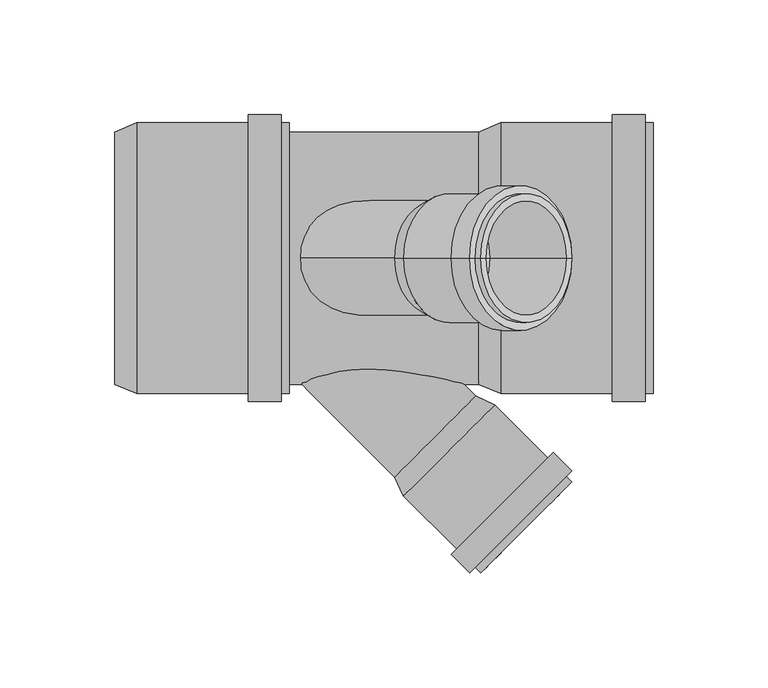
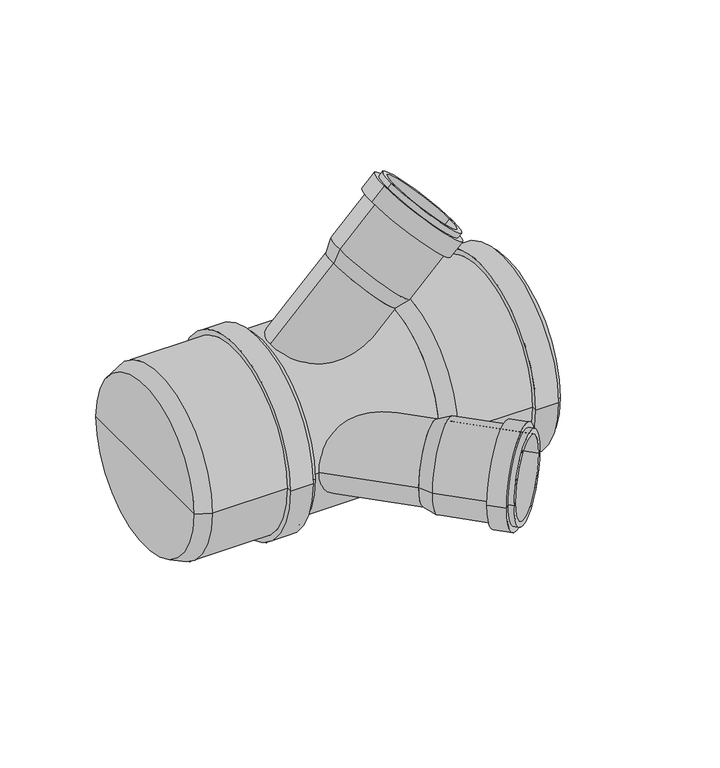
"""IFC4 building model written with IfcOpenShell, lengths in millimetres: pipe fitting geometry, pf_HTED : pf_HTED."""

from ifc_helpers import new_model, si_unit, point, frame, origin, origin_2d, place, context, project, spatial, polyline, circle_curve, trimmed, segment, composite_curve, outline, extrude, source, transform, mapped, element, save
from ifc_brep_helpers import plane_surface, cylinder_surface, revolved_surface, advanced_brep


def pipe_fitting_cdb1fdf9(model_context):
    return source(origin(), model_context, "Body", "SolidModel", [
        advanced_brep(
        [(95.5301261, 0.0, 60.1747871), (60.1747871, 0.0, 95.5301261), (63.9931637, 0.0, 103.7325648), (103.7325648, 0.0, 63.9931637), (77.8524566, 0.0, 77.8524566), (137.3201369, 0.0, 97.5807358), (97.5807358, 0.0, 137.3201369), (99.7727668, 0.0, 135.1281059), (135.1281059, 0.0, 99.7727668), (134.9159739, 0.0, 95.1765727), (95.1765727, 0.0, 134.9159739), (137.3201369, 0.0, 92.7724097), (92.7724097, 0.0, 137.3201369), (129.2591196, 0.0, 84.7113924), (84.7113924, 0.0, 129.2591196), (126.8549565, 0.0, 87.1155554), (87.1155554, 0.0, 126.8549565), (101.5405338, 0.0, 66.1851947), (66.1851947, 0.0, 101.5405338), (83.8628642, 0.0, 83.8628642)],
        [
            (0, 1, circle_curve(frame((77.8524566, 0.0, 77.8524566), z_axis=(0.707106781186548, 0.0, 0.7071067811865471), x_axis=(-0.7071067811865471, 0.0, 0.707106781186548)), 25.0)),
            (1, 2),
            (2, 3, circle_curve(frame((83.8628642, 0.0, 83.8628642), z_axis=(-0.707106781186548, 0.0, -0.7071067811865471), x_axis=(-0.7071067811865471, 0.0, 0.707106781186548)), 28.1)),
            (3, 0),
            (1, 0, circle_curve(frame((77.8524566, 0.0, 77.8524566), z_axis=(0.707106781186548, 0.0, 0.7071067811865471), x_axis=(-0.7071067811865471, 0.0, 0.707106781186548)), 25.0)),
            (3, 2, circle_curve(frame((83.8628642, 0.0, 83.8628642), z_axis=(-0.707106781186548, 0.0, -0.7071067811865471), x_axis=(-0.7071067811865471, 0.0, 0.707106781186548)), 28.1)),
            (4, 1),
            (0, 4),
            (5, 6, circle_curve(frame((117.4504364, 0.0, 117.4504364), z_axis=(0.707106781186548, 0.0, 0.7071067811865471), x_axis=(-0.7071067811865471, 0.0, 0.707106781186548)), 28.1)),
            (6, 7),
            (7, 8, circle_curve(frame((117.4504364, 0.0, 117.4504364), z_axis=(-0.707106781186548, 0.0, -0.7071067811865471), x_axis=(-0.7071067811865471, 0.0, 0.707106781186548)), 25.0)),
            (8, 5),
            (6, 5, circle_curve(frame((117.4504364, 0.0, 117.4504364), z_axis=(0.707106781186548, 0.0, 0.7071067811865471), x_axis=(-0.7071067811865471, 0.0, 0.707106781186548)), 28.1)),
            (8, 7, circle_curve(frame((117.4504364, 0.0, 117.4504364), z_axis=(-0.707106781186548, 0.0, -0.7071067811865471), x_axis=(-0.7071067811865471, 0.0, 0.707106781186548)), 25.0)),
            (9, 10, circle_curve(frame((115.0462733, 0.0, 115.0462733), z_axis=(0.707106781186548, 0.0, 0.7071067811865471), x_axis=(-0.7071067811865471, 0.0, 0.707106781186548)), 28.1)),
            (10, 6),
            (5, 9),
            (10, 9, circle_curve(frame((115.0462733, 0.0, 115.0462733), z_axis=(0.707106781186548, 0.0, 0.7071067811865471), x_axis=(-0.7071067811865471, 0.0, 0.707106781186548)), 28.1)),
            (11, 12, circle_curve(frame((115.0462733, 0.0, 115.0462733), z_axis=(0.707106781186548, 0.0, 0.7071067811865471), x_axis=(-0.7071067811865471, 0.0, 0.707106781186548)), 31.5)),
            (12, 10),
            (9, 11),
            (12, 11, circle_curve(frame((115.0462733, 0.0, 115.0462733), z_axis=(0.707106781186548, 0.0, 0.7071067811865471), x_axis=(-0.7071067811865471, 0.0, 0.707106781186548)), 31.5)),
            (13, 14, circle_curve(frame((106.985256, 0.0, 106.985256), z_axis=(0.707106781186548, 0.0, 0.7071067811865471), x_axis=(-0.7071067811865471, 0.0, 0.707106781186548)), 31.5)),
            (14, 12),
            (11, 13),
            (14, 13, circle_curve(frame((106.985256, 0.0, 106.985256), z_axis=(0.707106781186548, 0.0, 0.7071067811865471), x_axis=(-0.7071067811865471, 0.0, 0.707106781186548)), 31.5)),
            (15, 16, circle_curve(frame((106.985256, 0.0, 106.985256), z_axis=(0.707106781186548, 0.0, 0.7071067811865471), x_axis=(-0.7071067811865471, 0.0, 0.707106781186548)), 28.1)),
            (16, 14),
            (13, 15),
            (16, 15, circle_curve(frame((106.985256, 0.0, 106.985256), z_axis=(0.707106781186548, 0.0, 0.7071067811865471), x_axis=(-0.7071067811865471, 0.0, 0.707106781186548)), 28.1)),
            (2, 16),
            (15, 3),
            (17, 18, circle_curve(frame((83.8628642, 0.0, 83.8628642), z_axis=(0.707106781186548, 0.0, 0.7071067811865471), x_axis=(-0.7071067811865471, 0.0, 0.707106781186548)), 25.0)),
            (18, 19),
            (19, 17),
            (18, 17, circle_curve(frame((83.8628642, 0.0, 83.8628642), z_axis=(0.707106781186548, 0.0, 0.7071067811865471), x_axis=(-0.7071067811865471, 0.0, 0.707106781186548)), 25.0)),
            (7, 18),
            (17, 8),
        ],
        [
            revolved_surface(polyline([(63.9931637, 0.0, 103.7325648), (60.1747871, 0.0, 95.5301261)]), (77.8524566, 0.0, 77.8524566), (-0.707106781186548, 0.0, -0.7071067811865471)),
            plane_surface(frame((77.8524566, 0.0, 77.8524566), z_axis=(-0.707106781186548, 0.0, -0.7071067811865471), x_axis=(-0.7071067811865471, 0.0, 0.707106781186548))),
            plane_surface(frame((117.4504364, 0.0, 117.4504364), z_axis=(0.707106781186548, 0.0, 0.7071067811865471), x_axis=(-0.7071067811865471, 0.0, 0.707106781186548))),
            cylinder_surface(frame((77.8524566, 0.0, 77.8524566), z_axis=(-0.707106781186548, 0.0, -0.7071067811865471), x_axis=(-0.7071067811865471, 0.0, 0.707106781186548)), 28.1),
            plane_surface(frame((115.0462733, 0.0, 115.0462733), z_axis=(0.707106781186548, 0.0, 0.7071067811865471), x_axis=(-0.7071067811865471, 0.0, 0.707106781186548))),
            cylinder_surface(frame((77.8524566, 0.0, 77.8524566), z_axis=(-0.707106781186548, 0.0, -0.7071067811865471), x_axis=(-0.7071067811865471, 0.0, 0.707106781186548)), 31.5),
            plane_surface(frame((106.985256, 0.0, 106.985256), z_axis=(-0.707106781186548, 0.0, -0.7071067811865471), x_axis=(-0.7071067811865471, 0.0, 0.707106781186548))),
            plane_surface(frame((83.8628642, 0.0, 83.8628642), z_axis=(0.707106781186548, 0.0, 0.7071067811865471), x_axis=(-0.7071067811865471, 0.0, 0.707106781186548))),
            revolved_surface(polyline([(66.18519467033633, 0.0, 101.54053372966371), (99.77276687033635, 0.0, 135.1281059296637)]), (77.8524566, 0.0, 77.8524566), (-0.707106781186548, 0.0, -0.7071067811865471)),
        ],
        [
            (0, [[1, 2, 3, 4]]),
            (0, [[5, -4, 6, -2]]),
            (1, [[7, -1, 8]]),
            (1, [[-8, -5, -7]]),
            (2, [[9, 10, 11, 12]]),
            (2, [[13, -12, 14, -10]]),
            (3, [[15, 16, -9, 17]]),
            (3, [[18, -17, -13, -16]]),
            (4, [[19, 20, -15, 21]]),
            (4, [[22, -21, -18, -20]]),
            (5, [[23, 24, -19, 25]]),
            (5, [[26, -25, -22, -24]]),
            (6, [[27, 28, -23, 29]]),
            (6, [[30, -29, -26, -28]]),
            (3, [[-3, 31, -27, 32]]),
            (3, [[-6, -32, -30, -31]]),
            (7, [[33, 34, 35]]),
            (7, [[36, -35, -34]]),
            (8, [[-11, 37, -33, 38]]),
            (8, [[-14, -38, -36, -37]]),
        ],
    ),
        advanced_brep(
        [(60.1747871, -95.5301261, 0.0), (95.5301261, -60.1747871, 0.0), (103.7325648, -63.9931637, 0.0), (63.9931637, -103.7325648, 0.0), (77.8524566, -77.8524566, 0.0), (97.5807358, -137.3201369, 0.0), (137.3201369, -97.5807358, 0.0), (135.1281059, -99.7727668, 0.0), (99.7727668, -135.1281059, 0.0), (95.1765727, -134.9159739, 0.0), (134.9159739, -95.1765727, 0.0), (92.7724097, -137.3201369, 0.0), (137.3201369, -92.7724097, 0.0), (84.7113924, -129.2591196, 0.0), (129.2591196, -84.7113924, 0.0), (87.1155554, -126.8549565, 0.0), (126.8549565, -87.1155554, 0.0), (66.1851947, -101.5405338, 0.0), (101.5405338, -66.1851947, 0.0), (83.8628642, -83.8628642, 0.0)],
        [
            (0, 1, circle_curve(frame((77.8524566, -77.8524566, 0.0), z_axis=(0.7071067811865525, -0.7071067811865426, 0.0), x_axis=(0.7071067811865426, 0.7071067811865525, 0.0)), 25.0)),
            (1, 2),
            (2, 3, circle_curve(frame((83.8628642, -83.8628642, 0.0), z_axis=(-0.7071067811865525, 0.7071067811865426, 0.0), x_axis=(0.7071067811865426, 0.7071067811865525, 0.0)), 28.1)),
            (3, 0),
            (1, 0, circle_curve(frame((77.8524566, -77.8524566, 0.0), z_axis=(0.7071067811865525, -0.7071067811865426, 0.0), x_axis=(0.7071067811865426, 0.7071067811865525, 0.0)), 25.0)),
            (3, 2, circle_curve(frame((83.8628642, -83.8628642, 0.0), z_axis=(-0.7071067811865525, 0.7071067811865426, 0.0), x_axis=(0.7071067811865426, 0.7071067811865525, 0.0)), 28.1)),
            (4, 1),
            (0, 4),
            (5, 6, circle_curve(frame((117.4504364, -117.4504364, 0.0), z_axis=(0.7071067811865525, -0.7071067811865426, 0.0), x_axis=(0.7071067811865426, 0.7071067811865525, 0.0)), 28.1)),
            (6, 7),
            (7, 8, circle_curve(frame((117.4504364, -117.4504364, 0.0), z_axis=(-0.7071067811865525, 0.7071067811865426, 0.0), x_axis=(0.7071067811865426, 0.7071067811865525, 0.0)), 25.0)),
            (8, 5),
            (6, 5, circle_curve(frame((117.4504364, -117.4504364, 0.0), z_axis=(0.7071067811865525, -0.7071067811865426, 0.0), x_axis=(0.7071067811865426, 0.7071067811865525, 0.0)), 28.1)),
            (8, 7, circle_curve(frame((117.4504364, -117.4504364, 0.0), z_axis=(-0.7071067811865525, 0.7071067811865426, 0.0), x_axis=(0.7071067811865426, 0.7071067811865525, 0.0)), 25.0)),
            (9, 10, circle_curve(frame((115.0462733, -115.0462733, 0.0), z_axis=(0.7071067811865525, -0.7071067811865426, 0.0), x_axis=(0.7071067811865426, 0.7071067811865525, 0.0)), 28.1)),
            (10, 6),
            (5, 9),
            (10, 9, circle_curve(frame((115.0462733, -115.0462733, 0.0), z_axis=(0.7071067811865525, -0.7071067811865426, 0.0), x_axis=(0.7071067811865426, 0.7071067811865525, 0.0)), 28.1)),
            (11, 12, circle_curve(frame((115.0462733, -115.0462733, 0.0), z_axis=(0.7071067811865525, -0.7071067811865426, 0.0), x_axis=(0.7071067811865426, 0.7071067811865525, 0.0)), 31.5)),
            (12, 10),
            (9, 11),
            (12, 11, circle_curve(frame((115.0462733, -115.0462733, 0.0), z_axis=(0.7071067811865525, -0.7071067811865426, 0.0), x_axis=(0.7071067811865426, 0.7071067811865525, 0.0)), 31.5)),
            (13, 14, circle_curve(frame((106.985256, -106.985256, 0.0), z_axis=(0.7071067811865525, -0.7071067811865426, 0.0), x_axis=(0.7071067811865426, 0.7071067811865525, 0.0)), 31.5)),
            (14, 12),
            (11, 13),
            (14, 13, circle_curve(frame((106.985256, -106.985256, 0.0), z_axis=(0.7071067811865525, -0.7071067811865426, 0.0), x_axis=(0.7071067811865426, 0.7071067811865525, 0.0)), 31.5)),
            (15, 16, circle_curve(frame((106.985256, -106.985256, 0.0), z_axis=(0.7071067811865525, -0.7071067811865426, 0.0), x_axis=(0.7071067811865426, 0.7071067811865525, 0.0)), 28.1)),
            (16, 14),
            (13, 15),
            (16, 15, circle_curve(frame((106.985256, -106.985256, 0.0), z_axis=(0.7071067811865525, -0.7071067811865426, 0.0), x_axis=(0.7071067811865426, 0.7071067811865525, 0.0)), 28.1)),
            (2, 16),
            (15, 3),
            (17, 18, circle_curve(frame((83.8628642, -83.8628642, 0.0), z_axis=(0.7071067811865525, -0.7071067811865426, 0.0), x_axis=(0.7071067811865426, 0.7071067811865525, 0.0)), 25.0)),
            (18, 19),
            (19, 17),
            (18, 17, circle_curve(frame((83.8628642, -83.8628642, 0.0), z_axis=(0.7071067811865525, -0.7071067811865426, 0.0), x_axis=(0.7071067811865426, 0.7071067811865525, 0.0)), 25.0)),
            (7, 18),
            (17, 8),
        ],
        [
            revolved_surface(polyline([(103.7325648, -63.9931637, 0.0), (95.5301261, -60.1747871, 0.0)]), (77.8524566, -77.8524566, 0.0), (-0.7071067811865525, 0.7071067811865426, 0.0)),
            plane_surface(frame((77.8524566, -77.8524566, 0.0), z_axis=(-0.7071067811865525, 0.7071067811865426, 0.0), x_axis=(0.7071067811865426, 0.7071067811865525, 0.0))),
            plane_surface(frame((117.4504364, -117.4504364, 0.0), z_axis=(0.7071067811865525, -0.7071067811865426, 0.0), x_axis=(0.7071067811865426, 0.7071067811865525, 0.0))),
            cylinder_surface(frame((77.8524566, -77.8524566, 0.0), z_axis=(-0.7071067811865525, 0.7071067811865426, 0.0), x_axis=(0.7071067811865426, 0.7071067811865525, 0.0)), 28.1),
            plane_surface(frame((115.0462733, -115.0462733, 0.0), z_axis=(0.7071067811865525, -0.7071067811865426, 0.0), x_axis=(0.7071067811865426, 0.7071067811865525, 0.0))),
            cylinder_surface(frame((77.8524566, -77.8524566, 0.0), z_axis=(-0.7071067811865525, 0.7071067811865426, 0.0), x_axis=(0.7071067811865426, 0.7071067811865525, 0.0)), 31.5),
            plane_surface(frame((106.985256, -106.985256, 0.0), z_axis=(-0.7071067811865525, 0.7071067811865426, 0.0), x_axis=(0.7071067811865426, 0.7071067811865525, 0.0))),
            plane_surface(frame((83.8628642, -83.8628642, 0.0), z_axis=(0.7071067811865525, -0.7071067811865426, 0.0), x_axis=(0.7071067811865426, 0.7071067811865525, 0.0))),
            revolved_surface(polyline([(101.54053372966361, -66.18519467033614, 0.0), (135.12810592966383, -99.77276687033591, 0.0)]), (77.8524566, -77.8524566, 0.0), (-0.7071067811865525, 0.7071067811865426, 0.0)),
        ],
        [
            (0, [[1, 2, 3, 4]]),
            (0, [[5, -4, 6, -2]]),
            (1, [[7, -1, 8]]),
            (1, [[-8, -5, -7]]),
            (2, [[9, 10, 11, 12]]),
            (2, [[13, -12, 14, -10]]),
            (3, [[15, 16, -9, 17]]),
            (3, [[18, -17, -13, -16]]),
            (4, [[19, 20, -15, 21]]),
            (4, [[22, -21, -18, -20]]),
            (5, [[23, 24, -19, 25]]),
            (5, [[26, -25, -22, -24]]),
            (6, [[27, 28, -23, 29]]),
            (6, [[30, -29, -26, -28]]),
            (3, [[-3, 31, -27, 32]]),
            (3, [[-6, -32, -30, -31]]),
            (7, [[33, 34, 35]]),
            (7, [[36, -35, -34]]),
            (8, [[-11, 37, -33, 38]]),
            (8, [[-14, -38, -36, -37]]),
        ],
    ),
        advanced_brep(
        [(96.8, -55.0, 0.0), (96.8, 55.0, 0.0), (106.3, 59.1, 0.0), (106.3, -59.1, 0.0), (96.8, 0.0, 0.0), (172.8, -59.1, 0.0), (172.8, 59.1, 0.0), (172.8, 55.0, 0.0), (172.8, -55.0, 0.0), (169.4, -59.1, 0.0), (169.4, 59.1, 0.0), (169.4, -62.5, 0.0), (169.4, 62.5, 0.0), (154.9, -62.5, 0.0), (154.9, 62.5, 0.0), (154.9, -59.1, 0.0), (154.9, 59.1, 0.0), (106.3, -55.0, 0.0), (106.3, 55.0, 0.0), (106.3, 0.0, 0.0)],
        [
            (0, 1, circle_curve(frame((96.8, 0.0, 0.0), z_axis=(1.0, 0.0, 0.0), x_axis=(0.0, 1.0, 0.0)), 55.0)),
            (1, 2),
            (2, 3, circle_curve(frame((106.3, 0.0, 0.0), z_axis=(-1.0, 0.0, 0.0), x_axis=(0.0, 1.0, 0.0)), 59.1)),
            (3, 0),
            (1, 0, circle_curve(frame((96.8, 0.0, 0.0), z_axis=(1.0, 0.0, 0.0), x_axis=(0.0, 1.0, 0.0)), 55.0)),
            (3, 2, circle_curve(frame((106.3, 0.0, 0.0), z_axis=(-1.0, 0.0, 0.0), x_axis=(0.0, 1.0, 0.0)), 59.1)),
            (4, 1),
            (0, 4),
            (5, 6, circle_curve(frame((172.8, 0.0, 0.0), z_axis=(1.0, 0.0, 0.0), x_axis=(0.0, 1.0, 0.0)), 59.1)),
            (6, 7),
            (7, 8, circle_curve(frame((172.8, 0.0, 0.0), z_axis=(-1.0, 0.0, 0.0), x_axis=(0.0, 1.0, 0.0)), 55.0)),
            (8, 5),
            (6, 5, circle_curve(frame((172.8, 0.0, 0.0), z_axis=(1.0, 0.0, 0.0), x_axis=(0.0, 1.0, 0.0)), 59.1)),
            (8, 7, circle_curve(frame((172.8, 0.0, 0.0), z_axis=(-1.0, 0.0, 0.0), x_axis=(0.0, 1.0, 0.0)), 55.0)),
            (9, 10, circle_curve(frame((169.4, 0.0, 0.0), z_axis=(1.0, 0.0, 0.0), x_axis=(0.0, 1.0, 0.0)), 59.1)),
            (10, 6),
            (5, 9),
            (10, 9, circle_curve(frame((169.4, 0.0, 0.0), z_axis=(1.0, 0.0, 0.0), x_axis=(0.0, 1.0, 0.0)), 59.1)),
            (11, 12, circle_curve(frame((169.4, 0.0, 0.0), z_axis=(1.0, 0.0, 0.0), x_axis=(0.0, 1.0, 0.0)), 62.5)),
            (12, 10),
            (9, 11),
            (12, 11, circle_curve(frame((169.4, 0.0, 0.0), z_axis=(1.0, 0.0, 0.0), x_axis=(0.0, 1.0, 0.0)), 62.5)),
            (13, 14, circle_curve(frame((154.9, 0.0, 0.0), z_axis=(1.0, 0.0, 0.0), x_axis=(0.0, 1.0, 0.0)), 62.5)),
            (14, 12),
            (11, 13),
            (14, 13, circle_curve(frame((154.9, 0.0, 0.0), z_axis=(1.0, 0.0, 0.0), x_axis=(0.0, 1.0, 0.0)), 62.5)),
            (15, 16, circle_curve(frame((154.9, 0.0, 0.0), z_axis=(1.0, 0.0, 0.0), x_axis=(0.0, 1.0, 0.0)), 59.1)),
            (16, 14),
            (13, 15),
            (16, 15, circle_curve(frame((154.9, 0.0, 0.0), z_axis=(1.0, 0.0, 0.0), x_axis=(0.0, 1.0, 0.0)), 59.1)),
            (2, 16),
            (15, 3),
            (17, 18, circle_curve(frame((106.3, 0.0, 0.0), z_axis=(1.0, 0.0, 0.0), x_axis=(0.0, 1.0, 0.0)), 55.0)),
            (18, 19),
            (19, 17),
            (18, 17, circle_curve(frame((106.3, 0.0, 0.0), z_axis=(1.0, 0.0, 0.0), x_axis=(0.0, 1.0, 0.0)), 55.0)),
            (7, 18),
            (17, 8),
        ],
        [
            revolved_surface(polyline([(106.3, 59.1, 0.0), (96.8, 55.0, 0.0)]), (96.8, 0.0, 0.0), (-1.0, 0.0, 0.0)),
            plane_surface(frame((96.8, 0.0, 0.0), z_axis=(-1.0, 0.0, 0.0), x_axis=(0.0, 1.0, 0.0))),
            plane_surface(frame((172.8, 0.0, 0.0), z_axis=(1.0, 0.0, 0.0), x_axis=(0.0, 1.0, 0.0))),
            cylinder_surface(frame((96.8, 0.0, 0.0), z_axis=(-1.0, 0.0, 0.0), x_axis=(0.0, 1.0, 0.0)), 59.1),
            plane_surface(frame((169.4, 0.0, 0.0), z_axis=(1.0, 0.0, 0.0), x_axis=(0.0, 1.0, 0.0))),
            cylinder_surface(frame((96.8, 0.0, 0.0), z_axis=(-1.0, 0.0, 0.0), x_axis=(0.0, 1.0, 0.0)), 62.5),
            plane_surface(frame((154.9, 0.0, 0.0), z_axis=(-1.0, 0.0, 0.0), x_axis=(0.0, 1.0, 0.0))),
            plane_surface(frame((106.3, 0.0, 0.0), z_axis=(1.0, 0.0, 0.0), x_axis=(0.0, 1.0, 0.0))),
            revolved_surface(polyline([(106.3, 55.0, 0.0), (172.8, 55.0, 0.0)]), (96.8, 0.0, 0.0), (-1.0, 0.0, 0.0)),
        ],
        [
            (0, [[1, 2, 3, 4]]),
            (0, [[5, -4, 6, -2]]),
            (1, [[7, -1, 8]]),
            (1, [[-8, -5, -7]]),
            (2, [[9, 10, 11, 12]]),
            (2, [[13, -12, 14, -10]]),
            (3, [[15, 16, -9, 17]]),
            (3, [[18, -17, -13, -16]]),
            (4, [[19, 20, -15, 21]]),
            (4, [[22, -21, -18, -20]]),
            (5, [[23, 24, -19, 25]]),
            (5, [[26, -25, -22, -24]]),
            (6, [[27, 28, -23, 29]]),
            (6, [[30, -29, -26, -28]]),
            (3, [[-3, 31, -27, 32]]),
            (3, [[-6, -32, -30, -31]]),
            (7, [[33, 34, 35]]),
            (7, [[36, -35, -34]]),
            (8, [[-11, 37, -33, 38]]),
            (8, [[-14, -38, -36, -37]]),
        ],
    ),
        advanced_brep(
        [(-61.8, -55.0, 0.0), (-61.8, 55.0, 0.0), (-52.3, 59.1, 0.0), (-52.3, -59.1, 0.0), (-61.8, 0.0, 0.0), (14.2, -59.1, 0.0), (14.2, 59.1, 0.0), (14.2, 55.0, 0.0), (14.2, -55.0, 0.0), (10.8, -59.1, 0.0), (10.8, 59.1, 0.0), (10.8, -62.5, 0.0), (10.8, 62.5, 0.0), (-3.7, -62.5, 0.0), (-3.7, 62.5, 0.0), (-3.7, -59.1, 0.0), (-3.7, 59.1, 0.0), (-52.3, -55.0, 0.0), (-52.3, 55.0, 0.0), (-52.3, 0.0, 0.0)],
        [
            (0, 1, circle_curve(frame((-61.8, 0.0, 0.0), z_axis=(1.0, 0.0, 0.0), x_axis=(0.0, 1.0, 0.0)), 55.0)),
            (1, 2),
            (2, 3, circle_curve(frame((-52.3, 0.0, 0.0), z_axis=(-1.0, 0.0, 0.0), x_axis=(0.0, 1.0, 0.0)), 59.1)),
            (3, 0),
            (1, 0, circle_curve(frame((-61.8, 0.0, 0.0), z_axis=(1.0, 0.0, 0.0), x_axis=(0.0, 1.0, 0.0)), 55.0)),
            (3, 2, circle_curve(frame((-52.3, 0.0, 0.0), z_axis=(-1.0, 0.0, 0.0), x_axis=(0.0, 1.0, 0.0)), 59.1)),
            (4, 1),
            (0, 4),
            (5, 6, circle_curve(frame((14.2, 0.0, 0.0), z_axis=(1.0, 0.0, 0.0), x_axis=(0.0, 1.0, 0.0)), 59.1)),
            (6, 7),
            (7, 8, circle_curve(frame((14.2, 0.0, 0.0), z_axis=(-1.0, 0.0, 0.0), x_axis=(0.0, 1.0, 0.0)), 55.0)),
            (8, 5),
            (6, 5, circle_curve(frame((14.2, 0.0, 0.0), z_axis=(1.0, 0.0, 0.0), x_axis=(0.0, 1.0, 0.0)), 59.1)),
            (8, 7, circle_curve(frame((14.2, 0.0, 0.0), z_axis=(-1.0, 0.0, 0.0), x_axis=(0.0, 1.0, 0.0)), 55.0)),
            (9, 10, circle_curve(frame((10.8, 0.0, 0.0), z_axis=(1.0, 0.0, 0.0), x_axis=(0.0, 1.0, 0.0)), 59.1)),
            (10, 6),
            (5, 9),
            (10, 9, circle_curve(frame((10.8, 0.0, 0.0), z_axis=(1.0, 0.0, 0.0), x_axis=(0.0, 1.0, 0.0)), 59.1)),
            (11, 12, circle_curve(frame((10.8, 0.0, 0.0), z_axis=(1.0, 0.0, 0.0), x_axis=(0.0, 1.0, 0.0)), 62.5)),
            (12, 10),
            (9, 11),
            (12, 11, circle_curve(frame((10.8, 0.0, 0.0), z_axis=(1.0, 0.0, 0.0), x_axis=(0.0, 1.0, 0.0)), 62.5)),
            (13, 14, circle_curve(frame((-3.7, 0.0, 0.0), z_axis=(1.0, 0.0, 0.0), x_axis=(0.0, 1.0, 0.0)), 62.5)),
            (14, 12),
            (11, 13),
            (14, 13, circle_curve(frame((-3.7, 0.0, 0.0), z_axis=(1.0, 0.0, 0.0), x_axis=(0.0, 1.0, 0.0)), 62.5)),
            (15, 16, circle_curve(frame((-3.7, 0.0, 0.0), z_axis=(1.0, 0.0, 0.0), x_axis=(0.0, 1.0, 0.0)), 59.1)),
            (16, 14),
            (13, 15),
            (16, 15, circle_curve(frame((-3.7, 0.0, 0.0), z_axis=(1.0, 0.0, 0.0), x_axis=(0.0, 1.0, 0.0)), 59.1)),
            (2, 16),
            (15, 3),
            (17, 18, circle_curve(frame((-52.3, 0.0, 0.0), z_axis=(1.0, 0.0, 0.0), x_axis=(0.0, 1.0, 0.0)), 55.0)),
            (18, 19),
            (19, 17),
            (18, 17, circle_curve(frame((-52.3, 0.0, 0.0), z_axis=(1.0, 0.0, 0.0), x_axis=(0.0, 1.0, 0.0)), 55.0)),
            (7, 18),
            (17, 8),
        ],
        [
            revolved_surface(polyline([(-52.3, 59.1, 0.0), (-61.8, 55.0, 0.0)]), (-61.8, 0.0, 0.0), (-1.0, 0.0, 0.0)),
            plane_surface(frame((-61.8, 0.0, 0.0), z_axis=(-1.0, 0.0, 0.0), x_axis=(0.0, 1.0, 0.0))),
            plane_surface(frame((14.2, 0.0, 0.0), z_axis=(1.0, 0.0, 0.0), x_axis=(0.0, 1.0, 0.0))),
            cylinder_surface(frame((-61.8, 0.0, 0.0), z_axis=(-1.0, 0.0, 0.0), x_axis=(0.0, 1.0, 0.0)), 59.1),
            plane_surface(frame((10.8, 0.0, 0.0), z_axis=(1.0, 0.0, 0.0), x_axis=(0.0, 1.0, 0.0))),
            cylinder_surface(frame((-61.8, 0.0, 0.0), z_axis=(-1.0, 0.0, 0.0), x_axis=(0.0, 1.0, 0.0)), 62.5),
            plane_surface(frame((-3.7, 0.0, 0.0), z_axis=(-1.0, 0.0, 0.0), x_axis=(0.0, 1.0, 0.0))),
            plane_surface(frame((-52.3, 0.0, 0.0), z_axis=(1.0, 0.0, 0.0), x_axis=(0.0, 1.0, 0.0))),
            revolved_surface(polyline([(-52.3, 55.0, 0.0), (14.200000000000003, 55.0, 0.0)]), (-61.8, 0.0, 0.0), (-1.0, 0.0, 0.0)),
        ],
        [
            (0, [[1, 2, 3, 4]]),
            (0, [[5, -4, 6, -2]]),
            (1, [[7, -1, 8]]),
            (1, [[-8, -5, -7]]),
            (2, [[9, 10, 11, 12]]),
            (2, [[13, -12, 14, -10]]),
            (3, [[15, 16, -9, 17]]),
            (3, [[18, -17, -13, -16]]),
            (4, [[19, 20, -15, 21]]),
            (4, [[22, -21, -18, -20]]),
            (5, [[23, 24, -19, 25]]),
            (5, [[26, -25, -22, -24]]),
            (6, [[27, 28, -23, 29]]),
            (6, [[30, -29, -26, -28]]),
            (3, [[-3, 31, -27, 32]]),
            (3, [[-6, -32, -30, -31]]),
            (7, [[33, 34, 35]]),
            (7, [[36, -35, -34]]),
            (8, [[-11, 37, -33, 38]]),
            (8, [[-14, -38, -36, -37]]),
        ],
    ),
        extrude(outline(composite_curve([segment(trimmed(circle_curve(origin_2d(), 25.0), [point((0.0, 25.0))], [point((0.0, -25.0))], False, "CARTESIAN"), True, "CONTINUOUS"), segment(trimmed(circle_curve(origin_2d(), 25.0), [point((0.0, -25.0))], [point((0.0, 25.0))], False, "CARTESIAN"), True, "CONTINUOUS")], self_intersect=False)), frame((0.0, 0.0, 0.0), z_axis=(0.7071067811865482, 0.0, 0.7071067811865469), x_axis=(0.0, -1.0, 0.0)), (0.0, 0.0, 1.0), 110.1),
        extrude(outline(composite_curve([segment(trimmed(circle_curve(origin_2d(), 25.0), [point((0.0, -25.0))], [point((0.0, 25.0))], False, "CARTESIAN"), True, "CONTINUOUS"), segment(trimmed(circle_curve(origin_2d(), 25.0), [point((0.0, 25.0))], [point((0.0, -25.0))], False, "CARTESIAN"), True, "CONTINUOUS")], self_intersect=False)), frame((77.8524566, -77.8524566, 0.0), z_axis=(-0.707106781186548, 0.707106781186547, 0.0), x_axis=(0.0, 0.0, 1.0)), (0.0, 0.0, 1.0), 110.1),
        extrude(outline(composite_curve([segment(trimmed(circle_curve(origin_2d(), 55.0), [point((-55.0, 0.0))], [point((55.0, 0.0))], False, "CARTESIAN"), True, "CONTINUOUS"), segment(trimmed(circle_curve(origin_2d(), 55.0), [point((55.0, 0.0))], [point((-55.0, 0.0))], False, "CARTESIAN"), True, "CONTINUOUS")], self_intersect=False)), frame((-52.3, 0.0, 0.0), z_axis=(1.0, 0.0, 0.0), x_axis=(0.0, 1.0, 0.0)), (0.0, 0.0, 1.0), 149.1),
    ])


if __name__ == "__main__":
    model = new_model("IFC4")
    model_context = context("Model", 3, world=origin())
    ifc_project = project(units=[si_unit("LENGTHUNIT", "METRE", prefix="MILLI")], contexts=[model_context])
    site = spatial("IfcSite", under=ifc_project)
    building = spatial("IfcBuilding", under=site)
    placement = place(None, origin())
    pipe_fitting_shape = pipe_fitting_cdb1fdf9(model_context)
    element("IfcPipeFitting", 1, ObjectType="pf_HTED : pf_HTED", at=placement, inside=building, context=model_context, shape_type="MappedRepresentation", body=[
        mapped(pipe_fitting_shape, transform((0.0, 0.0, 0.0), x_axis=(1.0, 0.0, 0.0), y_axis=(0.0, 1.0, 0.0), z_axis=(0.0, 0.0, 1.0))),
    ])
    save(model, "model.ifc")
